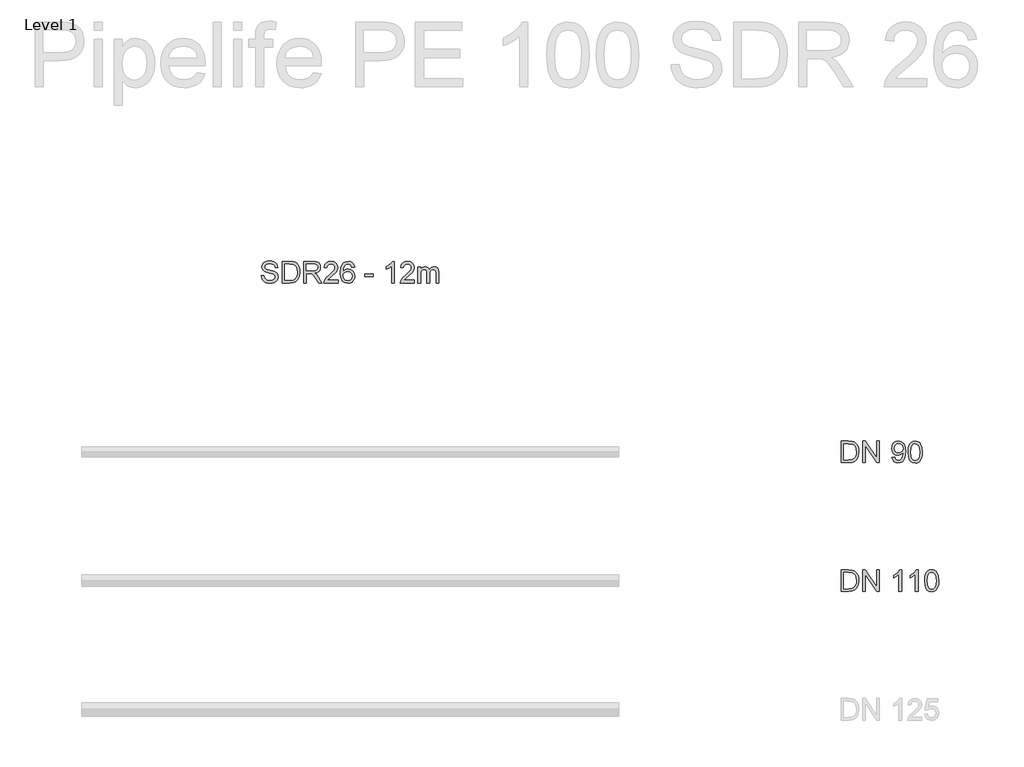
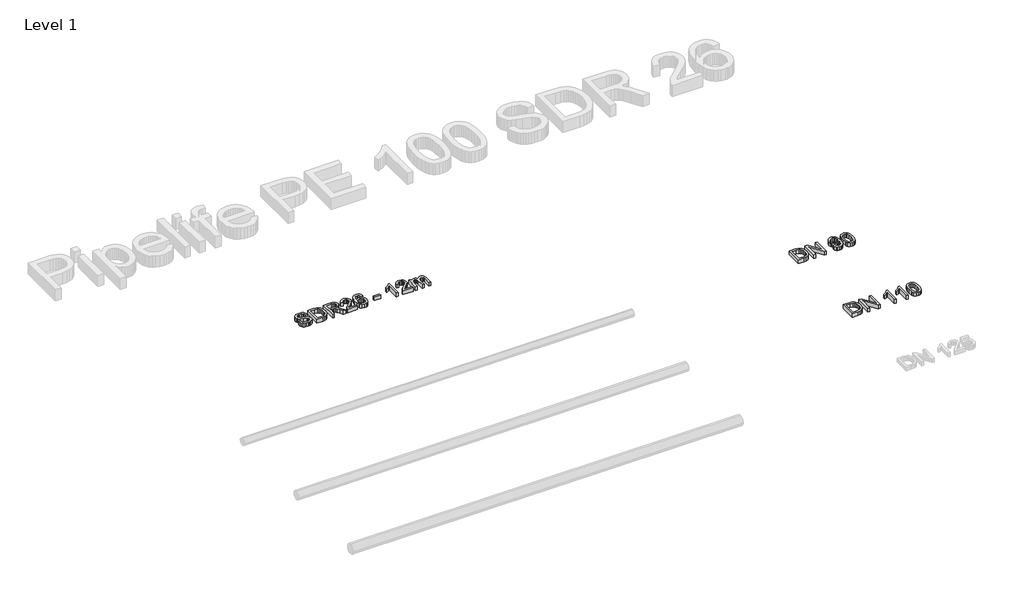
# One storey, part 6 of 26: 3 proxies.
"""IFC4 building model written with IfcOpenShell, lengths in millimetres."""

from ifc_helpers import new_model, si_unit, origin, origin_with_axes, place, context, project, spatial, polyline, outline, extrude, element, save

model = new_model("IFC4")

# Units and contexts
model_context = context("Model", 3, world=origin())
ifc_project = project(units=[si_unit("LENGTHUNIT", "METRE", prefix="MILLI")], contexts=[model_context])

# Site, building, storey
site = spatial("IfcSite", under=ifc_project)
building = spatial("IfcBuilding", under=site)
storey = spatial("IfcBuildingStorey", under=building, Name="Level 1", Elevation=0.0)

# Proxies
placement = place(None, origin())
element("IfcBuildingElementProxy", 1, Name="200mm Arial", ObjectType="200mm Arial", at=placement, inside=storey, context=model_context, shape_type="SweptSolid", body=[
    extrude(outline(polyline([(-9460.6923074, -93413.949573), (-9460.6923074, -93213.0369527), (-9391.3833395, -93213.0369527), (-9355.5271077, -93215.9309577), (-9339.5119782, -93221.5105013), (-9325.9984462, -93230.302881), (-9312.1047695, -93245.606772), (-9302.2087438, -93264.6385338), (-9296.2858437, -93287.0302846), (-9294.3115437, -93312.4141423), (-9299.6580953, -93352.9547382), (-9313.3923565, -93382.2136195), (-9331.7374053, -93400.436041), (-9355.7478369, -93410.5160077), (-9388.0478761, -93413.949573), (-9460.6923074, -93413.949573)]), holes=[polyline([(-9435.5782298, -93388.8354954), (-9391.1380848, -93388.8354954), (-9358.8135202, -93385.2057264), (-9340.1741658, -93374.9540815), (-9331.4492311, -93364.0831685), (-9324.8948002, -93350.0116822), (-9320.792916, -93332.6783089), (-9319.4256212, -93312.0217348), (-9322.1050284, -93284.6513144), (-9330.14325, -93264.4423301), (-9342.0197071, -93250.5609162), (-9356.2138207, -93242.1732067), (-9391.8247979, -93238.1510302), (-9435.5782298, -93238.1510302), (-9435.5782298, -93388.8354954)])]), origin_with_axes(), (0.0, 0.0, 1.0), 50.0),
    extrude(outline(polyline([(-9259.7796871, -93413.949573), (-9259.7796871, -93213.0369527), (-9232.899776, -93213.0369527), (-9127.93078, -93372.2072292), (-9127.93078, -93213.0369527), (-9102.8167025, -93213.0369527), (-9102.8167025, -93413.949573), (-9129.6966136, -93413.949573), (-9234.6656095, -93254.7302454), (-9234.6656095, -93413.949573), (-9259.7796871, -93413.949573)])), origin_with_axes(), (0.0, 0.0, 1.0), 50.0),
    extrude(outline(polyline([(-8986.6640939, -93363.7214179), (-8961.5500163, -93360.5821582), (-8957.2580597, -93374.8375855), (-8950.2683018, -93384.5435388), (-8940.7524209, -93390.116951), (-8928.8820951, -93391.9747551), (-8908.5504835, -93387.1922892), (-8894.7671715, -93374.4145212), (-8886.5511402, -93352.5868562), (-8882.9213712, -93323.4506021), (-8883.068524, -93318.5455089), (-8891.7689332, -93329.1650358), (-8903.1548809, -93337.5772708), (-8916.4047641, -93343.0587125), (-8930.6969797, -93344.8858597), (-8953.5976339, -93340.4222249), (-8972.6600526, -93327.0313202), (-8985.5175283, -93306.3440894), (-8989.8033535, -93279.9914758), (-8985.3090618, -93252.7682081), (-8971.8261867, -93231.4310524), (-8951.5742829, -93217.6354776), (-8926.772905, -93213.0369527), (-8908.0415801, -93215.6611776), (-8890.9902496, -93223.5338523), (-8876.728691, -93236.2625693), (-8866.3666814, -93253.4549212), (-8860.0575052, -93277.2200981), (-8857.9544465, -93309.6672901), (-8860.0513738, -93344.070388), (-8866.342156, -93370.6621249), (-8876.7716105, -93390.6442486), (-8891.2845552, -93405.2185069), (-8909.2555907, -93414.1212512), (-8930.0593175, -93417.0888326), (-8951.5313633, -93413.5878223), (-8968.6624016, -93403.0847914), (-8980.6430919, -93386.2419274), (-8986.6640939, -93363.7214179)]), holes=[polyline([(-8883.068524, -93279.4028646), (-8885.778588, -93262.3821909), (-8893.9087801, -93249.2855919), (-8906.5271326, -93240.9346706), (-8922.7016776, -93238.1510302), (-8939.4770966, -93241.1492685), (-8952.9170522, -93250.1439832), (-8961.74622, -93263.9089012), (-8964.689276, -93281.2177491), (-8961.9056356, -93296.7362379), (-8953.5547143, -93309.0541534), (-8940.4458525, -93317.092375), (-8923.3883907, -93319.7717822), (-8907.3426043, -93317.092375), (-8894.4238149, -93309.0541534), (-8885.9073467, -93296.2825168), (-8883.068524, -93279.4028646)])]), origin_with_axes(), (0.0, 0.0, 1.0), 50.0),
    extrude(outline(polyline([(-8835.9796286, -93315.1119436), (-8834.1340873, -93282.9529258), (-8828.5974633, -93257.3054194), (-8819.4249388, -93237.7770168), (-8806.6716963, -93223.9753106), (-8790.2457653, -93215.7715422), (-8770.0551751, -93213.0369527), (-8754.5796058, -93214.6556334), (-8740.7227173, -93219.5116758), (-8729.1344345, -93227.4150073), (-8720.4646821, -93238.1755557), (-8708.6924583, -93267.9004209), (-8704.1307216, -93315.1119436), (-8705.9578688, -93347.0870203), (-8711.4393105, -93372.6732131), (-8720.5566526, -93392.2200098), (-8733.291501, -93406.0768983), (-8749.7542203, -93414.335849), (-8770.0551751, -93417.0888326), (-8796.1502713, -93412.3063667), (-8815.9668481, -93397.9589689), (-8824.7224396, -93382.8298218), (-8830.9764335, -93363.9789353), (-8835.9796286, -93315.1119436)]), holes=[polyline([(-8810.8655511, -93315.0628927), (-8807.9224951, -93354.5672876), (-8799.0933272, -93377.4311536), (-8785.9476773, -93388.3388547), (-8770.0551751, -93391.9747551), (-8754.1626729, -93388.326592), (-8741.0170229, -93377.3821026), (-8732.1878551, -93354.5059739), (-8729.2447991, -93315.0628927), (-8732.0897532, -93276.4475459), (-8740.6246155, -93253.4058703), (-8753.74574, -93241.9647402), (-8770.3494807, -93238.1510302), (-8786.0703046, -93241.5110191), (-8798.7009198, -93251.5909857), (-8807.8243933, -93276.0674012), (-8810.8655511, -93315.0628927)])]), origin_with_axes(), (0.0, 0.0, 1.0), 50.0),
])
element("IfcBuildingElementProxy", 2, Name="200mm Arial", ObjectType="200mm Arial", at=placement, inside=storey, context=model_context, shape_type="SweptSolid", body=[
    extrude(outline(polyline([(-9460.6923074, -94613.949573), (-9460.6923074, -94413.0369527), (-9391.3833395, -94413.0369527), (-9355.5271077, -94415.9309577), (-9339.5119782, -94421.5105013), (-9325.9984462, -94430.302881), (-9312.1047695, -94445.606772), (-9302.2087438, -94464.6385338), (-9296.2858437, -94487.0302846), (-9294.3115437, -94512.4141423), (-9299.6580953, -94552.9547382), (-9313.3923565, -94582.2136195), (-9331.7374053, -94600.436041), (-9355.7478369, -94610.5160077), (-9388.0478761, -94613.949573), (-9460.6923074, -94613.949573)]), holes=[polyline([(-9435.5782298, -94588.8354954), (-9391.1380848, -94588.8354954), (-9358.8135202, -94585.2057264), (-9340.1741658, -94574.9540815), (-9331.4492311, -94564.0831685), (-9324.8948002, -94550.0116822), (-9320.792916, -94532.6783089), (-9319.4256212, -94512.0217348), (-9322.1050284, -94484.6513144), (-9330.14325, -94464.4423301), (-9342.0197071, -94450.5609162), (-9356.2138207, -94442.1732067), (-9391.8247979, -94438.1510302), (-9435.5782298, -94438.1510302), (-9435.5782298, -94588.8354954)])]), origin_with_axes(), (0.0, 0.0, 1.0), 50.0),
    extrude(outline(polyline([(-9259.7796871, -94613.949573), (-9259.7796871, -94413.0369527), (-9232.899776, -94413.0369527), (-9127.93078, -94572.2072292), (-9127.93078, -94413.0369527), (-9102.8167025, -94413.0369527), (-9102.8167025, -94613.949573), (-9129.6966136, -94613.949573), (-9234.6656095, -94454.7302454), (-9234.6656095, -94613.949573), (-9259.7796871, -94613.949573)])), origin_with_axes(), (0.0, 0.0, 1.0), 50.0),
    extrude(outline(polyline([(-8895.6255628, -94613.949573), (-8920.7396403, -94613.949573), (-8920.7396403, -94457.3789958), (-8944.5293427, -94474.3260931), (-8970.9677954, -94487.0057592), (-8970.9677954, -94463.2651077), (-8934.1550704, -94439.769711), (-8920.684458, -94426.1948653), (-8911.8123706, -94413.0369527), (-8895.6255628, -94413.0369527), (-8895.6255628, -94613.949573)])), origin_with_axes(), (0.0, 0.0, 1.0), 50.0),
    extrude(outline(polyline([(-8741.8018379, -94613.949573), (-8766.9159154, -94613.949573), (-8766.9159154, -94457.3789958), (-8790.7056178, -94474.3260931), (-8817.1440705, -94487.0057592), (-8817.1440705, -94463.2651077), (-8780.3313455, -94439.769711), (-8766.8607331, -94426.1948653), (-8757.9886457, -94413.0369527), (-8741.8018379, -94413.0369527), (-8741.8018379, -94613.949573)])), origin_with_axes(), (0.0, 0.0, 1.0), 50.0),
    extrude(outline(polyline([(-8682.1559037, -94515.1119436), (-8680.3103624, -94482.9529258), (-8674.7737383, -94457.3054194), (-8665.6012139, -94437.7770168), (-8652.8479714, -94423.9753106), (-8636.4220403, -94415.7715422), (-8616.2314502, -94413.0369527), (-8600.7558809, -94414.6556334), (-8586.8989924, -94419.5116758), (-8575.3107096, -94427.4150073), (-8566.6409572, -94438.1755557), (-8554.8687334, -94467.9004209), (-8550.3069966, -94515.1119436), (-8552.1341439, -94547.0870203), (-8557.6155856, -94572.6732131), (-8566.7329277, -94592.2200098), (-8579.4677761, -94606.0768983), (-8595.9304954, -94614.335849), (-8616.2314502, -94617.0888326), (-8642.3265464, -94612.3063667), (-8662.1431232, -94597.9589689), (-8670.8987147, -94582.8298218), (-8677.1527086, -94563.9789353), (-8682.1559037, -94515.1119436)]), holes=[polyline([(-8657.0418262, -94515.0628927), (-8654.0987702, -94554.5672876), (-8645.2696023, -94577.4311536), (-8632.1239524, -94588.3388547), (-8616.2314502, -94591.9747551), (-8600.338948, -94588.326592), (-8587.193298, -94577.3821026), (-8578.3641301, -94554.5059739), (-8575.4210742, -94515.0628927), (-8578.2660283, -94476.4475459), (-8586.8008906, -94453.4058703), (-8599.9220151, -94441.9647402), (-8616.5257558, -94438.1510302), (-8632.2465797, -94441.5110191), (-8644.8771949, -94451.5909857), (-8654.0006683, -94476.0674012), (-8657.0418262, -94515.0628927)])]), origin_with_axes(), (0.0, 0.0, 1.0), 50.0),
])
element("IfcBuildingElementProxy", 3, Name="200mm Arial", ObjectType="200mm Arial", at=placement, inside=storey, context=model_context, shape_type="SweptSolid", body=[
    extrude(outline(polyline([(-14863.0013138, -91668.9871574), (-14837.8872363, -91668.9871574), (-14829.7938324, -91694.1257604), (-14821.6636403, -91703.016242), (-14810.0263065, -91710.0182626), (-14795.801536, -91714.5616053), (-14779.9090338, -91716.0760528), (-14753.6667848, -91711.4897906), (-14736.7196876, -91698.8837009), (-14731.1524067, -91682.0347055), (-14735.321736, -91666.3629325), (-14741.6738318, -91660.1641209), (-14752.3914606, -91654.9585907), (-14788.9589309, -91645.3691333), (-14828.3223044, -91632.9837728), (-14840.8241609, -91624.5347497), (-14849.6839856, -91614.2953675), (-14854.9630922, -91602.4863554), (-14856.7227944, -91589.3284427), (-14854.5461593, -91574.6192943), (-14848.0162539, -91560.9034272), (-14837.3047564, -91549.2783562), (-14822.5833453, -91540.8415958), (-14804.9127468, -91535.7096419), (-14785.3536873, -91533.9989907), (-14764.1636844, -91535.7893497), (-14745.6224319, -91541.1604268), (-14730.3921173, -91550.0018575), (-14719.1349282, -91562.203277), (-14712.0102802, -91577.0043959), (-14709.1775889, -91593.6449248), (-14734.2916664, -91593.6449248), (-14738.9024541, -91578.6598649), (-14748.5164369, -91567.8441342), (-14763.538285, -91561.2958347), (-14784.3726687, -91559.1130682), (-14805.6975617, -91561.2713092), (-14820.3270024, -91567.7460324), (-14828.7882882, -91577.274176), (-14831.6087169, -91588.5926788), (-14829.6098914, -91598.2434498), (-14823.6134148, -91606.0057599), (-14809.4376953, -91612.9464668), (-14782.6068351, -91620.0343266), (-14738.1666901, -91632.6404163), (-14723.8499491, -91641.7516271), (-14713.861953, -91652.9965534), (-14707.9942351, -91666.2525679), (-14706.0383292, -91681.3970434), (-14708.2885407, -91696.878744), (-14715.0391753, -91711.4407397), (-14726.0143215, -91723.973253), (-14740.9380678, -91733.3665066), (-14758.8845778, -91739.2342244), (-14778.9280152, -91741.1901304), (-14803.5331893, -91739.0809402), (-14823.7850931, -91732.7533699), (-14839.9167186, -91722.1828939), (-14852.1610577, -91707.3449868), (-14860.0214696, -91689.2697181), (-14863.0013138, -91668.9871574)])), origin_with_axes(), (0.0, 0.0, 1.0), 50.0),
    extrude(outline(polyline([(-14668.3672129, -91738.0508707), (-14668.3672129, -91537.1382504), (-14599.058245, -91537.1382504), (-14563.2020132, -91540.0322554), (-14547.1868837, -91545.611799), (-14533.6733517, -91554.4041787), (-14519.779675, -91569.7080697), (-14509.8836494, -91588.7398315), (-14503.9607492, -91611.1315823), (-14501.9864492, -91636.51544), (-14507.3330009, -91677.0560359), (-14521.067262, -91706.3149172), (-14539.4123108, -91724.5373387), (-14563.4227424, -91734.6173054), (-14595.7227816, -91738.0508707), (-14668.3672129, -91738.0508707)]), holes=[polyline([(-14643.2531353, -91712.9367931), (-14598.8129903, -91712.9367931), (-14566.4884257, -91709.3070241), (-14547.8490713, -91699.0553792), (-14539.1241366, -91688.1844662), (-14532.5697057, -91674.1129799), (-14528.4678215, -91656.7796066), (-14527.1005267, -91636.1230325), (-14529.7799339, -91608.7526121), (-14537.8181555, -91588.5436278), (-14549.6946126, -91574.6622139), (-14563.8887263, -91566.2745044), (-14599.4997034, -91562.2523279), (-14643.2531353, -91562.2523279), (-14643.2531353, -91712.9367931)])]), origin_with_axes(), (0.0, 0.0, 1.0), 50.0),
    extrude(outline(polyline([(-14467.4545926, -91738.0508707), (-14467.4545926, -91537.1382504), (-14380.8796964, -91537.1382504), (-14357.6111602, -91538.4932824), (-14340.682457, -91542.5583784), (-14328.3093593, -91550.0631711), (-14318.7076392, -91561.7372931), (-14312.5456158, -91576.2134496), (-14310.491608, -91592.1243459), (-14313.8945164, -91611.9163972), (-14324.1032418, -91628.3239342), (-14341.4243524, -91640.3536755), (-14366.1644166, -91647.0123396), (-14351.8905952, -91657.7544938), (-14331.5344581, -91683.6043354), (-14298.0326711, -91738.0508707), (-14327.217976, -91738.0508707), (-14353.3621231, -91696.4066288), (-14372.2467322, -91668.8400046), (-14385.5150095, -91655.816982), (-14397.4589116, -91651.0345161), (-14412.0270386, -91650.1515993), (-14442.340515, -91650.1515993), (-14442.340515, -91738.0508707), (-14467.4545926, -91738.0508707)]), holes=[polyline([(-14442.340515, -91625.0375217), (-14386.1281462, -91625.0375217), (-14357.457876, -91621.4813291), (-14348.0278342, -91616.8582787), (-14341.1729664, -91610.1015127), (-14335.6056855, -91593.0563136), (-14338.2605672, -91580.8058432), (-14346.2252124, -91570.934343), (-14359.9288168, -91564.4228317), (-14379.8005759, -91562.2523279), (-14442.340515, -91562.2523279), (-14442.340515, -91625.0375217)])]), origin_with_axes(), (0.0, 0.0, 1.0), 50.0),
    extrude(outline(polyline([(-14147.250104, -91712.9367931), (-14147.250104, -91738.0508707), (-14279.0990111, -91738.0508707), (-14276.4012098, -91720.7358914), (-14261.1463697, -91694.0767095), (-14229.7047218, -91664.9649809), (-14186.3436973, -91623.1245354), (-14178.2135052, -91608.7035612), (-14175.5034412, -91594.6749944), (-14178.0602211, -91582.0995615), (-14185.7305607, -91571.6455815), (-14197.5211786, -91564.6006413), (-14212.4387935, -91562.2523279), (-14228.1044352, -91564.545459), (-14240.2751978, -91571.4248523), (-14248.1294784, -91582.3509476), (-14250.8456738, -91596.7841845), (-14275.9597514, -91593.6449248), (-14269.8713043, -91569.3524504), (-14256.7072603, -91551.6082755), (-14237.1543322, -91540.7557566), (-14211.8992333, -91537.1382504), (-14186.4601933, -91541.1604268), (-14166.9440535, -91553.2269563), (-14154.5280361, -91571.253174), (-14150.3893637, -91593.1544155), (-14154.8529985, -91616.9686433), (-14169.6909057, -91641.5922115), (-14205.6697648, -91676.0014408), (-14234.5607642, -91700.1590252), (-14245.8915296, -91712.9367931), (-14147.250104, -91712.9367931)])), origin_with_axes(), (0.0, 0.0, 1.0), 50.0),
    extrude(outline(polyline([(-13993.4263791, -91590.5056651), (-14018.5404566, -91593.6449248), (-14028.0563375, -91572.7001766), (-14039.4484167, -91564.8642901), (-14053.219466, -91562.2523279), (-14075.8809969, -91568.3346435), (-14085.3171701, -91577.942495), (-14093.0242979, -91591.1678527), (-14098.2298281, -91609.8746522), (-14100.1612086, -91635.9268288), (-14090.0873733, -91624.1729991), (-14078.0147125, -91615.8895228), (-14064.6176765, -91610.9782982), (-14050.5707156, -91609.3412233), (-14027.3696245, -91613.8171209), (-14007.8964042, -91627.2448137), (-13994.6894406, -91647.7603663), (-13990.2871194, -91673.4998432), (-13992.3595213, -91691.4831414), (-13998.576727, -91708.1543272), (-14008.4237017, -91722.2932585), (-14021.3854107, -91732.6797935), (-14036.8732427, -91739.0625461), (-14054.2985865, -91741.1901304), (-14082.7910471, -91735.5492731), (-14105.4832348, -91718.6267013), (-14114.1422573, -91705.5178396), (-14120.3272733, -91688.7546833), (-14125.2752861, -91644.2654874), (-14119.7815817, -91594.2457987), (-14112.9144511, -91575.1680516), (-14103.3004683, -91560.0450359), (-14092.8802108, -91550.0233172), (-14080.7983529, -91542.8649468), (-14051.6498362, -91537.1382504), (-14029.6137047, -91540.6821802), (-14011.9676316, -91551.3139699), (-13999.6067966, -91568.1997535), (-13993.4263791, -91590.5056651)]), holes=[polyline([(-14100.1612086, -91673.1074358), (-14094.3486731, -91694.8615244), (-14078.8976293, -91710.6559248), (-14056.2606238, -91716.0760528), (-14039.68754, -91713.2678869), (-14026.658386, -91704.8433892), (-14018.2154942, -91691.5996374), (-14015.4011969, -91674.3337091), (-14018.178706, -91657.7606252), (-14026.5112332, -91645.1238787), (-14039.7611164, -91637.1224453), (-14057.2906934, -91634.4553008), (-14073.8392518, -91637.1224453), (-14087.6777462, -91645.1238787), (-14097.040343, -91657.4540569), (-14100.1612086, -91673.1074358)])]), origin_with_axes(), (0.0, 0.0, 1.0), 50.0),
    extrude(outline(polyline([(-13896.1093286, -91678.4049365), (-13896.1093286, -91653.290859), (-13817.6278363, -91653.290859), (-13817.6278363, -91678.4049365), (-13896.1093286, -91678.4049365)])), origin_with_axes(), (0.0, 0.0, 1.0), 50.0),
    extrude(outline(polyline([(-13622.9937354, -91738.0508707), (-13648.1078129, -91738.0508707), (-13648.1078129, -91581.4802935), (-13671.8975153, -91598.4273908), (-13698.335968, -91611.1070569), (-13698.335968, -91587.3664054), (-13661.523243, -91563.8710087), (-13648.0526306, -91550.2961631), (-13639.1805432, -91537.1382504), (-13622.9937354, -91537.1382504), (-13622.9937354, -91738.0508707)])), origin_with_axes(), (0.0, 0.0, 1.0), 50.0),
    extrude(outline(polyline([(-13434.6381539, -91712.9367931), (-13434.6381539, -91738.0508707), (-13566.4870609, -91738.0508707), (-13563.7892596, -91720.7358914), (-13548.5344196, -91694.0767095), (-13517.0927717, -91664.9649809), (-13473.7317472, -91623.1245354), (-13465.6015551, -91608.7035612), (-13462.8914911, -91594.6749944), (-13465.448271, -91582.0995615), (-13473.1186106, -91571.6455815), (-13484.9092285, -91564.6006413), (-13499.8268434, -91562.2523279), (-13515.492485, -91564.545459), (-13527.6632477, -91571.4248523), (-13535.5175283, -91582.3509476), (-13538.2337237, -91596.7841845), (-13563.3478012, -91593.6449248), (-13557.2593542, -91569.3524504), (-13544.0953102, -91551.6082755), (-13524.5423821, -91540.7557566), (-13499.2872831, -91537.1382504), (-13473.8482432, -91541.1604268), (-13454.3321033, -91553.2269563), (-13441.916086, -91571.253174), (-13437.7774135, -91593.1544155), (-13442.2410484, -91616.9686433), (-13457.0789556, -91641.5922115), (-13493.0578147, -91676.0014408), (-13521.948814, -91700.1590252), (-13533.2795795, -91712.9367931), (-13434.6381539, -91712.9367931)])), origin_with_axes(), (0.0, 0.0, 1.0), 50.0),
    extrude(outline(polyline([(-13403.2455569, -91738.0508707), (-13403.2455569, -91590.5056651), (-13378.1314794, -91590.5056651), (-13378.1314794, -91614.7858768), (-13370.5776358, -91603.632921), (-13360.8655511, -91594.8957236), (-13349.3263192, -91589.248735), (-13336.2910338, -91587.3664054), (-13322.3237807, -91589.2855232), (-13311.1279053, -91595.0428764), (-13302.7647213, -91604.2583204), (-13297.2955423, -91616.5517104), (-13288.141412, -91603.7831395), (-13277.6996947, -91594.6627317), (-13265.9703904, -91589.190487), (-13252.9534992, -91587.3664054), (-13234.0750215, -91590.4014319), (-13220.1138997, -91599.5065113), (-13211.4870669, -91614.9268982), (-13208.611456, -91636.9078475), (-13208.611456, -91738.0508707), (-13233.7255336, -91738.0508707), (-13233.7255336, -91647.6990526), (-13236.0554529, -91626.7297789), (-13244.4922133, -91616.4045576), (-13258.8396111, -91612.480483), (-13272.4451135, -91614.9943433), (-13283.5367557, -91622.5359242), (-13290.9127897, -91635.6202605), (-13293.3714677, -91654.762387), (-13293.3714677, -91738.0508707), (-13318.4855452, -91738.0508707), (-13318.4855452, -91644.9031495), (-13319.9386791, -91630.7029045), (-13324.2980808, -91620.5738869), (-13331.9684204, -91614.5038339), (-13343.3543681, -91612.480483), (-13361.9446716, -91617.8760856), (-13369.3023115, -91624.5224869), (-13374.3055066, -91633.6704859), (-13378.1314794, -91663.6406058), (-13378.1314794, -91738.0508707), (-13403.2455569, -91738.0508707)])), origin_with_axes(), (0.0, 0.0, 1.0), 50.0),
])

save(model, "model.ifc")
